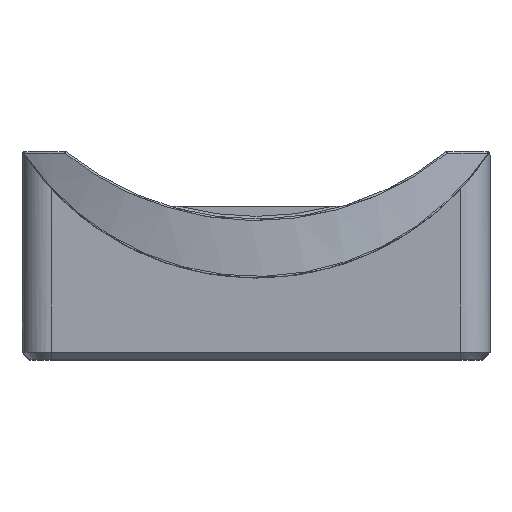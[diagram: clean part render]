
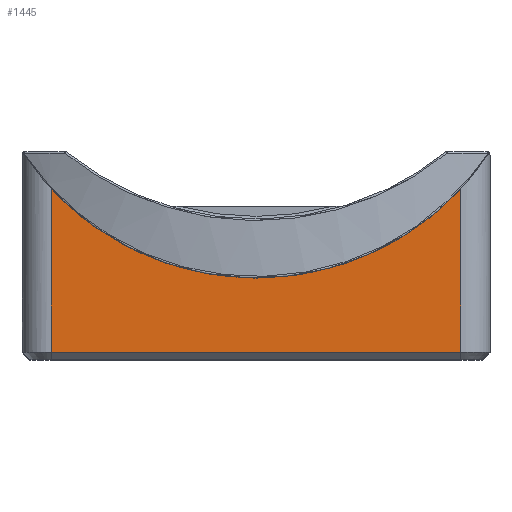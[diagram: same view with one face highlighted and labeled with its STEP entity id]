
A CAD part, top view. The second image highlights one B-rep face of the part: STEP entity #1445.
In plain terms, the highlighted planar face has unit normal (0, 0, 1).
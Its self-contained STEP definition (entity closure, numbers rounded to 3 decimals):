
#131 = ORIENTED_EDGE ( 'NONE', *, *, #377, .T. ) ;
#269 = CARTESIAN_POINT ( 'NONE',  ( -15.91, 15.505, 15.91 ) ) ;
#288 = DIRECTION ( 'NONE',  ( 0., 0., -1. ) ) ;
#377 = EDGE_CURVE ( 'NONE', #2853, #1518, #2440, .T. ) ;
#397 = VECTOR ( 'NONE', #1066, 1000. ) ;
#589 = DIRECTION ( 'NONE',  ( 0., 0., 1. ) ) ;
#744 = VECTOR ( 'NONE', #965, 1000. ) ;
#748 = ORIENTED_EDGE ( 'NONE', *, *, #2179, .T. ) ;
#951 = LINE ( 'NONE', #1541, #744 ) ;
#965 = DIRECTION ( 'NONE',  ( 0., -1., 0. ) ) ;
#1066 = DIRECTION ( 'NONE',  ( 0., 1., 0. ) ) ;
#1180 = CARTESIAN_POINT ( 'NONE',  ( 13.91, 0.5, 15.91 ) ) ;
#1251 = EDGE_LOOP ( 'NONE', ( #748, #131, #2562, #2279 ) ) ;
#1331 = DIRECTION ( 'NONE',  ( 1., 0., 0. ) ) ;
#1336 = LINE ( 'NONE', #3590, #397 ) ;
#1382 = CARTESIAN_POINT ( 'NONE',  ( 0., 30., 15.91 ) ) ;
#1445 = ADVANCED_FACE ( 'NONE', ( #3077 ), #3059, .F. ) ;
#1471 = EDGE_CURVE ( 'NONE', #1518, #2939, #1336, .T. ) ;
#1518 = VERTEX_POINT ( 'NONE', #1180 ) ;
#1534 = VERTEX_POINT ( 'NONE', #2316 ) ;
#1541 = CARTESIAN_POINT ( 'NONE',  ( -13.91, 15.505, 15.91 ) ) ;
#2125 = CARTESIAN_POINT ( 'NONE',  ( 13.91, 12.315, 15.91 ) ) ;
#2143 = CIRCLE ( 'NONE', #2625, 22.5 ) ;
#2179 = EDGE_CURVE ( 'NONE', #1534, #2853, #951, .T. ) ;
#2221 = AXIS2_PLACEMENT_3D ( 'NONE', #269, #288, #3353 ) ;
#2279 = ORIENTED_EDGE ( 'NONE', *, *, #3176, .F. ) ;
#2316 = CARTESIAN_POINT ( 'NONE',  ( -13.91, 12.315, 15.91 ) ) ;
#2440 = LINE ( 'NONE', #3505, #3056 ) ;
#2562 = ORIENTED_EDGE ( 'NONE', *, *, #1471, .T. ) ;
#2625 = AXIS2_PLACEMENT_3D ( 'NONE', #1382, #589, #2836 ) ;
#2836 = DIRECTION ( 'NONE',  ( -1., 0., 0. ) ) ;
#2853 = VERTEX_POINT ( 'NONE', #2907 ) ;
#2907 = CARTESIAN_POINT ( 'NONE',  ( -13.91, 0.5, 15.91 ) ) ;
#2939 = VERTEX_POINT ( 'NONE', #2125 ) ;
#3056 = VECTOR ( 'NONE', #1331, 1000. ) ;
#3059 = PLANE ( 'NONE',  #2221 ) ;
#3077 = FACE_OUTER_BOUND ( 'NONE', #1251, .T. ) ;
#3176 = EDGE_CURVE ( 'NONE', #1534, #2939, #2143, .T. ) ;
#3353 = DIRECTION ( 'NONE',  ( -1., 0., 0. ) ) ;
#3505 = CARTESIAN_POINT ( 'NONE',  ( 13.91, 0.5, 15.91 ) ) ;
#3590 = CARTESIAN_POINT ( 'NONE',  ( 13.91, 15.505, 15.91 ) ) ;
